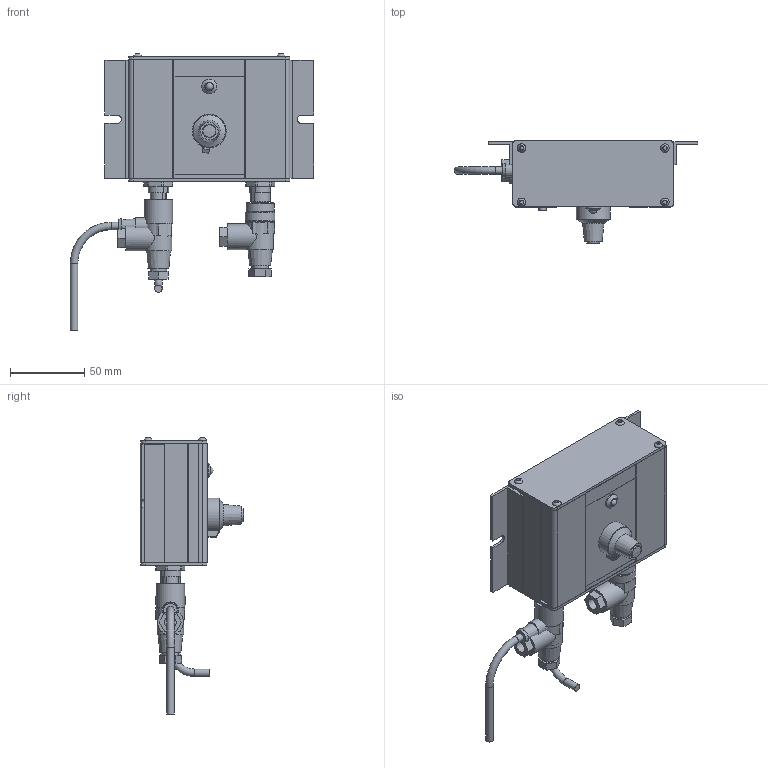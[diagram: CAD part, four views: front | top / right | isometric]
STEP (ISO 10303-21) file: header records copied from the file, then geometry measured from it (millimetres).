
FILE_DESCRIPTION(('Bauteilbeschreibung','HiCAD-Model','HiCAD-STEP-TRANSLATION','Bauteilbeschreibung'),'2;1');
FILE_NAME('EXTERNALCONTROLUNITCMMEASYCMTINYPERFOMASTER_3D.STP','2014-06-26T14:57:37+00:00',('Konstrukteur'),('Konstrukteur Firma GmbH'),' HiCAD 2011, Step 1600.0 ','HiCAD 2011','confidential');
FILE_SCHEMA(('AUTOMOTIVE_DESIGN { 1 2 10303 214 0 1 1 1 }'));
Length unit declared in the file: millimetre
Products named in the file (64): EXTERNALCONTROLUNITCMMEASYCMTIN; A_ECU CMM EASY_CM TINY_PERFOMA; A_HOUSING; A_FLANGE; A0FLANGE; A_FRONT; A0FRONT; A210060325_SCHROEF LBK_BZK M3X; A2100603250SCHROEF0LBK0BZK0M3X; A2100603250SCHROEF0LBK0BZK0M3X0; A2100603250SCHROEF0LBK0BZK0M3X1; A807004220_LABEL EXTERNAL BALA; A_GREY; A_YELLOW; A_BLUE; A_LED RED CHASSIS_1; A_LED; A0HOUSING; A_KNOB; A519020356_CONNECTOR DEVICE M1; EXTRUDED SOLID_1; EXTRUDED SOLID_0; EXTRUDED SOLID_5; EXTRUDED SOLID_7; A519020351_CONNECTOR DEVICE M1; EXTRUDED SOLID_5_1; EXTRUDED0SOLID07; EXTRUDED0SOLID00; EXTRUDED0SOLID01; A_CONNECTOR STRAIGHT; EXTRUDED0SOLID000; DRAAD GEBOGEN; REVOLVED SOLID_1; REVOLVED SOLID_3; A_CONNECTOR ANGLED; REVOLVED0SOLID01; EXTRUDED0SOLID001; C_EDGE SWEEP_0; REVOLVED SOLID_2; REVOLVED0SOLID03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
Assembly tree (63 placements, depth 4):
  EXTERNALCONTROLUNITCMMEASYCMTIN
    A_ECU CMM EASY_CM TINY_PERFOMA
      A_HOUSING
      A_FLANGE
      A0FLANGE
      A_FRONT
      A0FRONT
      A210060325_SCHROEF LBK_BZK M3X
      A2100603250SCHROEF0LBK0BZK0M3X
      A2100603250SCHROEF0LBK0BZK0M3X0
      A2100603250SCHROEF0LBK0BZK0M3X1
      A807004220_LABEL EXTERNAL BALA
        A_GREY
        A_YELLOW
        A_BLUE
      A_LED RED CHASSIS_1
        A_LED
        A0HOUSING
      A_KNOB
      A519020356_CONNECTOR DEVICE M1
        EXTRUDED SOLID_1
        EXTRUDED SOLID_0
        EXTRUDED SOLID_5
        EXTRUDED SOLID_7
      A519020351_CONNECTOR DEVICE M1
        EXTRUDED SOLID_5_1
        EXTRUDED0SOLID07
        EXTRUDED0SOLID00
        EXTRUDED0SOLID01
      A_CONNECTOR STRAIGHT
        EXTRUDED0SOLID000
        DRAAD GEBOGEN
        REVOLVED SOLID_1
        REVOLVED SOLID_3
      A_CONNECTOR ANGLED
        REVOLVED0SOLID01
        EXTRUDED0SOLID001
        C_EDGE SWEEP_0
        REVOLVED SOLID_2
        REVOLVED0SOLID03
      A519020320_CONNECTOR M12 MALE
        A_CONTACTS
        A_INSERT
        A0HOUSING0
      A519020352_CONNECTOR M12_ MALE
        CONNECTOR_XZCC12MDB50R_1_1_2_M
        CONNECTOR_XZCC12MDB50R_1_1_1_M
        EXTRUDED0SOLID070
        CONNECTOR_XZCC12MDB50R_1_2_MAC
        EXTRUDED0SOLID0501
      A519020357_CONNECTOR M12_ MALE
        CONNECTOR0XZCC12MDB50R0101020M
        CONNECTOR0XZCC12MDB50R0101010M
        CONNECTOR0XZCC12MDB50R01020MAC
        EXTRUDED0SOLID05
        EXTRUDED0SOLID071
      A519020325_CONNECTOR M12 FEMAL
        A0INSERT
        A_CONTACT
        A0CONTACT
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Bounding box: 163.75 x 69.52 x 185.85 mm (x, y, z)
Volume: 480870.5 mm3; surface area: 119591.5 mm2
Topology: 66 solids, 66 shells, 754 faces, 1790 edges, 1214 vertices
Faces by surface type: plane 465, cylinder 231, torus 28, cone 19, sphere 11
Full cylindrical faces by diameter (mm): 0.8 x20, 1 x40, 1.8 x10, 4.2 x2, 5 x5, 5.2 x1, 7.9 x4, 8 x4, 8.3 x1, 8.4 x2, 9 x4, 9.7 x2, 10.045 x1, 10.2 x7, 10.5 x2, 10.9 x4, 11 x7, 12 x5, 12.12 x2, 12.8 x1, 13.8 x4, 14.5 x3, 15 x2, 15.2 x2, 16.773 x4, 17 x2, 17.3 x2, 18 x6, 19.02 x2, 19.163 x2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
Entity records: 30767 total; most frequent: CARTESIAN_POINT 5413, DIRECTION 3731, ORIENTED_EDGE 2886, COLOUR_RGB 1485, PRESENTATION_STYLE_ASSIGNMENT 1485, EDGE_CURVE 1443, AXIS2_PLACEMENT_3D 1438, OVER_RIDING_STYLED_ITEM 1433
